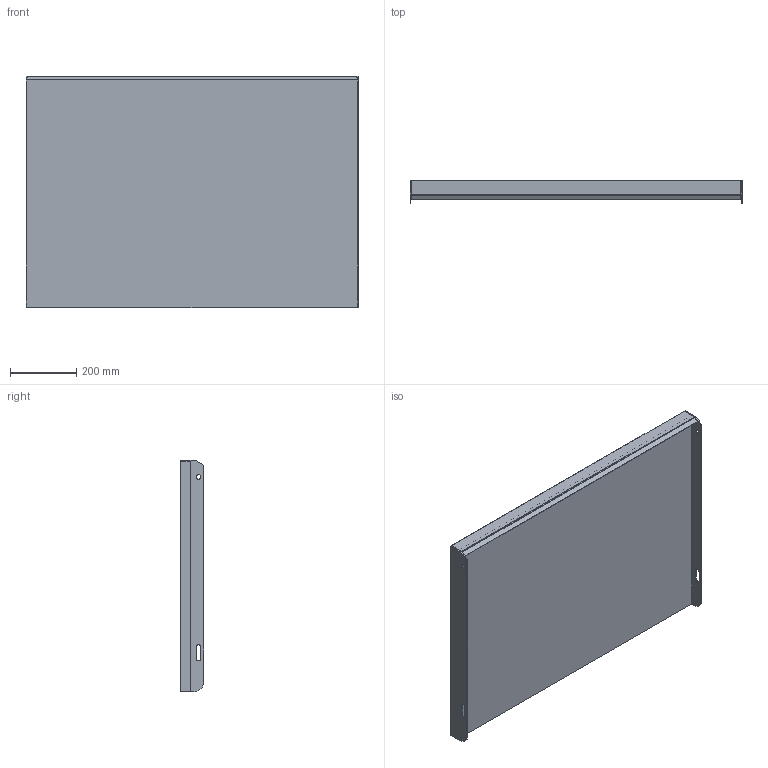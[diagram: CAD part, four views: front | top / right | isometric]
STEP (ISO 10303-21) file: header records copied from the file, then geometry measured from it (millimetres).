
FILE_DESCRIPTION (( 'STEP AP203' ), '1' );
FILE_NAME ('148810071, Plan TH6, 1000x700, vfz.STEP', '2020-10-21T13:11:52', ( '' ), ( '' ), 'SwSTEP 2.0', 'SolidWorks 2019', '' );
FILE_SCHEMA (( 'CONFIG_CONTROL_DESIGN' ));
Length unit declared in the file: millimetre
Products named in the file (4): 148810071, Plan TH6, 1000x700, vfz; SW0000041751; SW0000041386; SW0000041785
Assembly tree (4 placements, depth 2):
  148810071, Plan TH6, 1000x700, vfz
    SW0000041785
    SW0000041386  x2
    SW0000041751
Bounding box: 1000 x 70 x 697 mm (x, y, z)
Volume: 21159559.2 mm3; surface area: 1807079.4 mm2
Topology: 4 solids, 4 shells, 59 faces, 142 edges, 92 vertices
Faces by surface type: plane 45, cylinder 14
Entity records: 1693 total; most frequent: DIRECTION 221, CARTESIAN_POINT 220, ORIENTED_EDGE 206, EDGE_CURVE 103, LINE 87, VECTOR 87, AXIS2_PLACEMENT_3D 67, VERTEX_POINT 66
